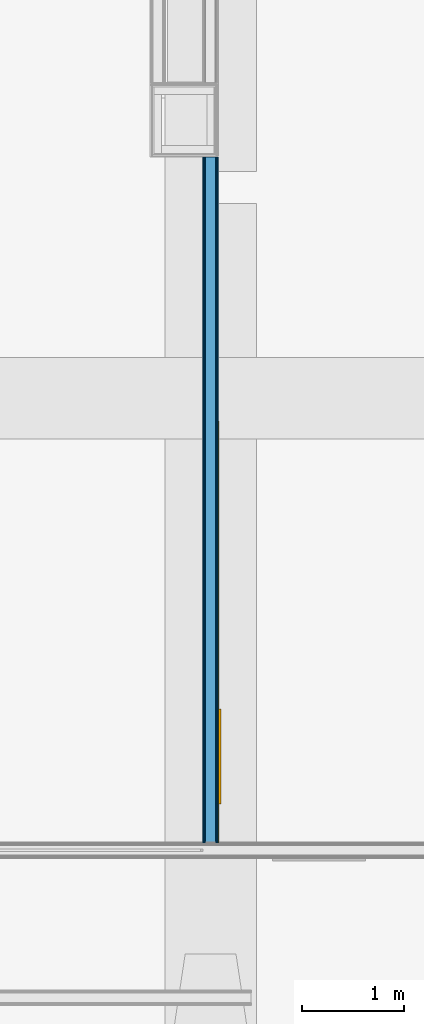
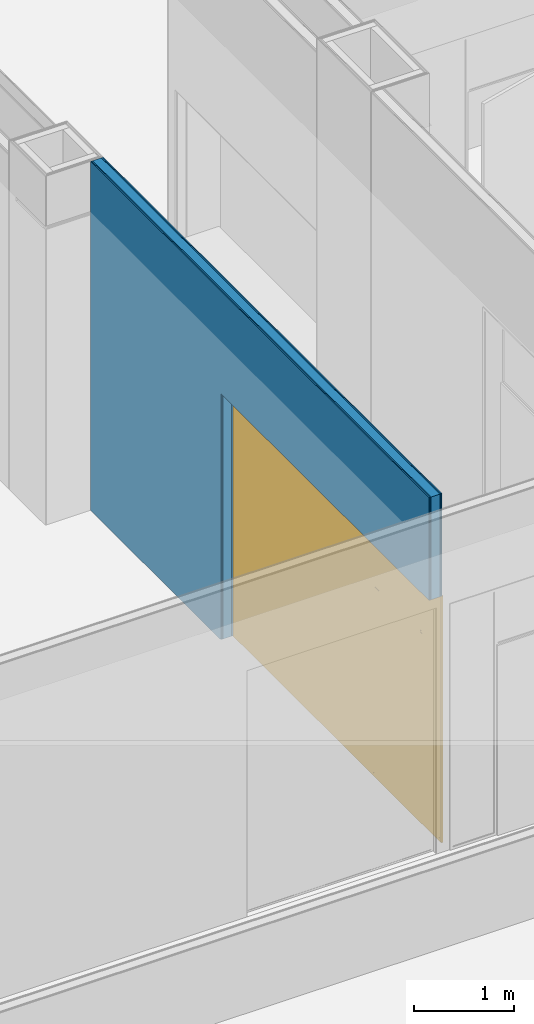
# One storey, part 69 of 94: 5 building element parts, 1 door, 1 opening, 1 element without a shape of its own.
"""IFC2X3 building model written with IfcOpenShell, lengths in millimetres."""

from ifc_helpers import new_model, entity, si_unit, converted_unit, derived_unit, money_unit, direction, frame, origin_with_axes, place, context, subcontext, project, spatial, open_shell, faceted_brep, surface_model, material, type_object, element, fill, aggregate, save


model = new_model("IFC2X3")

# Units and contexts
model_context = context("Model", 3, precision=0.01, world=origin_with_axes(), true_north=direction((0.0, 1.0)))
body_context = subcontext(model_context, "Body", "Model", "MODEL_VIEW")
ifc_project = project(units=[si_unit("LENGTHUNIT", "METRE", prefix="MILLI"), si_unit("AREAUNIT", "SQUARE_METRE"), si_unit("VOLUMEUNIT", "CUBIC_METRE"), converted_unit("PLANEANGLEUNIT", "DEGREE", entity("IfcPlaneAngleMeasure", 0.0174532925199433), si_unit("PLANEANGLEUNIT", "RADIAN"), dimensions=[0, 0, 0, 0, 0, 0, 0]), money_unit("EUR"), converted_unit("TIMEUNIT", "Year", entity("IfcTimeMeasure", 31557600.0), si_unit("TIMEUNIT", "SECOND"), dimensions=[0, 0, 1, 0, 0, 0, 0]), si_unit("MASSUNIT", "GRAM", prefix="KILO"), si_unit("THERMODYNAMICTEMPERATUREUNIT", "DEGREE_CELSIUS"), si_unit("LUMINOUSINTENSITYUNIT", "LUMEN"), si_unit("ENERGYUNIT", "JOULE", prefix="MEGA"), derived_unit("THERMALCONDUCTANCEUNIT", [(si_unit("POWERUNIT", "WATT"), 1), (si_unit("LENGTHUNIT", "METRE"), -1), (si_unit("THERMODYNAMICTEMPERATUREUNIT", "KELVIN"), -1)]), derived_unit("SPECIFICHEATCAPACITYUNIT", [(si_unit("ENERGYUNIT", "JOULE"), 1), (si_unit("MASSUNIT", "GRAM", prefix="KILO"), -1), (si_unit("THERMODYNAMICTEMPERATUREUNIT", "KELVIN"), -1)]), derived_unit("MASSDENSITYUNIT", [(si_unit("MASSUNIT", "GRAM", prefix="KILO"), 1), (si_unit("VOLUMEUNIT", "CUBIC_METRE"), -1)])], contexts=[model_context])

# Site, building, storey
site_placement = place(None, origin_with_axes())
site = spatial("IfcSite", under=ifc_project, at=site_placement, Name="<site naam>", CompositionType="ELEMENT")
building_placement = place(site_placement, origin_with_axes())
building = spatial("IfcBuilding", under=site, at=building_placement, Name="<Naam gebouw>", CompositionType="ELEMENT")
storey_placement = place(building_placement, frame((0.0, 0.0, 4250.0), z_axis=(0.0, 0.0, 1.0), x_axis=(1.0, 0.0, 0.0)))
storey = spatial("IfcBuildingStorey", under=building, at=storey_placement, Name="01 1e verdieping", CompositionType="ELEMENT", Elevation=4250.0)

# Door
door_style = type_object("IfcDoorStyle", Name="D1 bl zl2 27", ConstructionType="NOTDEFINED", OperationType="USERDEFINED", ParameterTakesPrecedence=False, Sizeable=False)
wall_placement = place(storey_placement, frame((-3999.999999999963, 2374.8189865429, 0.0), z_axis=(0.0, 0.0, 1.0), x_axis=(0.0, -1.0, 0.0)))
opening_placement = place(wall_placement, frame((4675.601566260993, 0.0, 0.0), z_axis=(0.0, 0.0, 1.0), x_axis=(1.0, 0.0, 0.0)))
door_placement = place(opening_placement, frame((-2075.782579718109, 0.0, 0.0), z_axis=(0.0, 0.0, 1.0), x_axis=(1.0, 0.0, 0.0)))
door = element("IfcDoor", 1, at=door_placement, inside=storey, type_object=door_style, Name="22_BI-F-16_305", ObjectType="DOOR", OverallHeight=3000.0, OverallWidth=4151.56, context=body_context, shape_type="SurfaceModel", body=[
    faceted_brep([(0.0, 85.00000000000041, 0.0), (32.99999999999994, 85.00000000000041, 0.0), (32.99999999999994, 65.0000000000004, 0.0), (0.0, 65.0000000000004, 0.0), (0.0, 85.00000000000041, 2967.0), (32.99999999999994, 85.00000000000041, 2967.0), (32.99999999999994, 85.00000000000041, 33.00000000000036), (32.99999999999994, 65.0000000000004, 33.00000000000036), (32.99999999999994, 65.0000000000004, 2967.0), (0.0, 65.0000000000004, 2967.0)], [[[0, 1, 2, 3]], [[0, 4, 5, 6, 1]], [[1, 6, 7, 2]], [[3, 2, 7, 8, 9]], [[4, 0, 3, 9]], [[5, 4, 9, 8]], [[6, 5, 8, 7]]]),
    faceted_brep([(2834.56515943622, 64.99999999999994, 0.0), (2834.56515943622, 64.99999999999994, 2317.0), (2851.56515943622, 64.99999999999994, 2317.0), (2851.56515943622, 64.99999999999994, 2333.0), (2851.56515943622, 64.99999999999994, 2967.0), (2809.56515943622, 64.99999999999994, 2967.0), (2809.56515943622, 64.99999999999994, 32.99999999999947), (2809.56515943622, 64.99999999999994, 0.0), (2834.56515943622, 84.99999999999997, 0.0), (2834.56515943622, 84.99999999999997, 2317.0), (2851.56515943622, 84.99999999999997, 2317.0), (2851.56515943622, 84.99999999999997, 2333.0), (2851.56515943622, 84.99999999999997, 2967.0), (2809.56515943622, 84.99999999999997, 2967.0), (2809.56515943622, 84.99999999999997, 32.99999999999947), (2809.56515943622, 84.99999999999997, 0.0)], [[[0, 1, 2, 3, 4, 5, 6, 7]], [[1, 0, 8, 9]], [[10, 2, 1, 9]], [[2, 10, 11, 3]], [[12, 4, 3, 11]], [[13, 5, 4, 12]], [[14, 6, 5, 13]], [[15, 7, 6, 14]], [[8, 0, 7, 15]], [[9, 8, 15, 14, 13, 12, 11, 10]]]),
    faceted_brep([(32.99999999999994, 85.00000000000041, 33.00000000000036), (32.99999999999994, 85.00000000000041, 0.0), (32.99999999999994, 65.0000000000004, 0.0), (32.99999999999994, 65.0000000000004, 33.00000000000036), (2809.56515943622, 84.99999999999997, 33.00000000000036), (2809.56515943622, 84.99999999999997, 0.0), (2809.56515943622, 64.99999999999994, 0.0), (2809.56515943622, 64.99999999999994, 33.00000000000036)], [[[0, 1, 2, 3]], [[0, 4, 5, 1]], [[1, 5, 6, 2]], [[3, 2, 6, 7]], [[4, 0, 3, 7]], [[5, 4, 7, 6]]]),
    faceted_brep([(4151.565159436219, 84.99999999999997, 0.0), (4151.565159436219, 85.00000000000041, 2967.0), (4151.565159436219, 65.0000000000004, 2967.0), (4151.565159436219, 64.99999999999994, 0.0), (4118.565159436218, 84.99999999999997, 0.0), (4118.565159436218, 84.99999999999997, 33.00000000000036), (4118.565159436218, 85.00000000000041, 2967.0), (4118.565159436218, 65.0000000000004, 2967.0), (4118.565159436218, 64.99999999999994, 33.00000000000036), (4118.565159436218, 64.99999999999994, 0.0)], [[[0, 1, 2, 3]], [[0, 4, 5, 6, 1]], [[1, 6, 7, 2]], [[3, 2, 7, 8, 9]], [[4, 0, 3, 9]], [[5, 4, 9, 8]], [[6, 5, 8, 7]]]),
    faceted_brep([(3768.565159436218, 65.0000000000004, 2317.0), (3768.565159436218, 64.99999999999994, 0.0), (3793.565159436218, 64.99999999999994, 0.0), (3793.565159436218, 64.99999999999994, 32.99999999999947), (3793.565159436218, 65.0000000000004, 2967.0), (3751.565159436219, 65.0000000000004, 2967.0), (3751.565159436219, 65.0000000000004, 2333.0), (3751.565159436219, 65.0000000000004, 2317.0), (3768.565159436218, 85.00000000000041, 2317.0), (3768.565159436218, 84.99999999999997, 0.0), (3793.565159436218, 84.99999999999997, 0.0), (3793.565159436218, 84.99999999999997, 32.99999999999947), (3793.565159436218, 85.00000000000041, 2967.0), (3751.565159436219, 85.00000000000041, 2967.0), (3751.565159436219, 85.00000000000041, 2333.0), (3751.565159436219, 85.00000000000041, 2317.0)], [[[0, 1, 2, 3, 4, 5, 6, 7]], [[1, 0, 8, 9]], [[1, 9, 10, 2]], [[11, 3, 2, 10]], [[12, 4, 3, 11]], [[13, 5, 4, 12]], [[14, 6, 5, 13]], [[15, 7, 6, 14]], [[0, 7, 15, 8]], [[8, 15, 14, 13, 12, 11, 10, 9]]]),
    faceted_brep([(3793.565159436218, 84.99999999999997, 33.00000000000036), (3793.565159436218, 84.99999999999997, 0.0), (3793.565159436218, 64.99999999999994, 0.0), (3793.565159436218, 64.99999999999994, 33.00000000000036), (4118.565159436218, 84.99999999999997, 33.00000000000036), (4118.565159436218, 84.99999999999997, 0.0), (4118.565159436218, 64.99999999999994, 0.0), (4118.565159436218, 64.99999999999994, 33.00000000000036)], [[[0, 1, 2, 3]], [[0, 4, 5, 1]], [[1, 5, 6, 2]], [[3, 2, 6, 7]], [[4, 0, 3, 7]], [[5, 4, 7, 6]]]),
    faceted_brep([(0.0, 85.00000000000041, 3000.0), (0.0, 85.00000000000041, 2967.0), (0.0, 65.0000000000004, 2967.0), (0.0, 65.0000000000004, 3000.0), (4151.565159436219, 85.00000000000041, 3000.0), (4151.565159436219, 85.00000000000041, 2967.0), (4118.565159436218, 85.00000000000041, 2967.0), (3793.565159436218, 85.00000000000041, 2967.0), (3751.565159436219, 85.00000000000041, 2967.0), (2851.56515943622, 84.99999999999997, 2967.0), (2809.56515943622, 84.99999999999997, 2967.0), (32.99999999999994, 85.00000000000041, 2967.0), (32.99999999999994, 65.0000000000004, 2967.0), (2809.56515943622, 64.99999999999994, 2967.0), (2851.56515943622, 64.99999999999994, 2967.0), (3751.565159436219, 65.0000000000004, 2967.0), (3793.565159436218, 65.0000000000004, 2967.0), (4118.565159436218, 65.0000000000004, 2967.0), (4151.565159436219, 65.0000000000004, 2967.0), (4151.565159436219, 65.0000000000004, 3000.0)], [[[0, 1, 2, 3]], [[0, 4, 5, 6, 7, 8, 9, 10, 11, 1]], [[1, 11, 12, 2]], [[3, 2, 12, 13, 14, 15, 16, 17, 18, 19]], [[4, 0, 3, 19]], [[5, 4, 19, 18]], [[6, 5, 18, 17]], [[7, 6, 17, 16]], [[8, 7, 16, 15]], [[9, 8, 15, 14]], [[10, 9, 14, 13]], [[11, 10, 13, 12]]]),
    faceted_brep([(2851.56515943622, 64.99999999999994, 2317.0), (3751.565159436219, 65.0000000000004, 2317.0), (3751.565159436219, 65.0000000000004, 2333.0), (2851.56515943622, 64.99999999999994, 2333.0), (3751.565159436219, 85.00000000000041, 2317.0), (2851.56515943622, 84.99999999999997, 2317.0), (3751.565159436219, 85.00000000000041, 2333.0), (2851.56515943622, 84.99999999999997, 2333.0)], [[[0, 1, 2, 3]], [[4, 1, 0, 5]], [[1, 4, 6, 2]], [[7, 3, 2, 6]], [[5, 0, 3, 7]], [[4, 5, 7, 6]]]),
    faceted_brep([(3768.565159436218, 103.0000000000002, 0.0), (3768.565159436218, 63.00000000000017, 0.0), (2834.56515943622, 62.99999999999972, 0.0), (2834.56515943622, 102.9999999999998, 0.0), (3768.565159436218, 103.0000000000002, 2317.0), (3768.565159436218, 63.00000000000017, 2317.0), (2834.56515943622, 62.99999999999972, 2317.0), (2834.56515943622, 102.9999999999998, 2317.0)], [[[0, 1, 2, 3]], [[4, 5, 1, 0]], [[1, 5, 6, 2]], [[3, 2, 6, 7]], [[0, 3, 7, 4]], [[7, 6, 5, 4]]]),
    surface_model("IfcShellBasedSurfaceModel", [(2851.56515943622, 59.00000000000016, 2333.0), (3751.565159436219, 59.00000000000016, 2333.0), (3751.565159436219, 59.00000000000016, 2967.0), (2851.56515943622, 59.00000000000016, 2967.0)], [open_shell([[[0, 1, 2, 3]]])]),
    surface_model("IfcShellBasedSurfaceModel", [(2851.56515943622, 71.00000000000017, 2333.0), (2851.56515943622, 71.00000000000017, 2967.0), (3751.565159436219, 71.00000000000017, 2967.0), (3751.565159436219, 71.00000000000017, 2333.0)], [open_shell([[[0, 1, 2, 3]]])]),
    surface_model("IfcShellBasedSurfaceModel", [(955.1883864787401, 59.00000000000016, 33.00000000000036), (955.1883864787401, 59.00000000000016, 2967.0), (32.99999999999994, 59.00000000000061, 2967.0), (32.99999999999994, 59.00000000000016, 33.00000000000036)], [open_shell([[[0, 1, 2, 3]]])]),
    surface_model("IfcShellBasedSurfaceModel", [(955.1883864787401, 71.00000000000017, 33.00000000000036), (32.99999999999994, 71.00000000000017, 33.00000000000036), (32.99999999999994, 71.00000000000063, 2967.0), (955.1883864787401, 71.00000000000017, 2967.0)], [open_shell([[[0, 1, 2, 3]]])]),
    surface_model("IfcShellBasedSurfaceModel", [(1882.37677295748, 59.00000000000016, 33.00000000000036), (1882.37677295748, 59.00000000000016, 2967.0), (960.1883864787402, 59.00000000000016, 2967.0), (960.1883864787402, 59.00000000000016, 33.00000000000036)], [open_shell([[[0, 1, 2, 3]]])]),
    surface_model("IfcShellBasedSurfaceModel", [(1882.37677295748, 71.00000000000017, 33.00000000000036), (960.1883864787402, 71.00000000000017, 33.00000000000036), (960.1883864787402, 71.00000000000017, 2967.0), (1882.37677295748, 71.00000000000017, 2967.0)], [open_shell([[[0, 1, 2, 3]]])]),
    surface_model("IfcShellBasedSurfaceModel", [(2809.56515943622, 58.99999999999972, 33.00000000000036), (2809.56515943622, 59.00000000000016, 2967.0), (1887.376772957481, 59.00000000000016, 2967.0), (1887.376772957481, 59.00000000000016, 33.00000000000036)], [open_shell([[[0, 1, 2, 3]]])]),
    surface_model("IfcShellBasedSurfaceModel", [(2809.56515943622, 70.99999999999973, 33.00000000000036), (1887.376772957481, 71.00000000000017, 33.00000000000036), (1887.376772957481, 71.00000000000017, 2967.0), (2809.56515943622, 71.00000000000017, 2967.0)], [open_shell([[[0, 1, 2, 3]]])]),
    faceted_brep([(955.1883864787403, 80.00000000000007, 33.00000000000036), (955.1883864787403, 84.99999999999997, 33.00000000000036), (960.1883864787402, 84.99999999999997, 33.00000000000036), (960.1883864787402, 80.00000000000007, 33.00000000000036), (955.1883864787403, 80.00000000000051, 2967.0), (955.1883864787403, 85.00000000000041, 2967.0), (960.1883864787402, 85.00000000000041, 2967.0), (960.1883864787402, 80.00000000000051, 2967.0)], [[[0, 1, 2, 3]], [[4, 5, 1, 0]], [[1, 5, 6, 2]], [[3, 2, 6, 7]], [[0, 3, 7, 4]], [[7, 6, 5, 4]]]),
    faceted_brep([(1882.37677295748, 80.00000000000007, 33.00000000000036), (1882.37677295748, 84.99999999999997, 33.00000000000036), (1887.376772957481, 84.99999999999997, 33.00000000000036), (1887.376772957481, 80.00000000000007, 33.00000000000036), (1882.37677295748, 80.00000000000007, 2967.0), (1882.37677295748, 84.99999999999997, 2967.0), (1887.376772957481, 84.99999999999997, 2967.0), (1887.376772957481, 80.00000000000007, 2967.0)], [[[0, 1, 2, 3]], [[4, 5, 1, 0]], [[1, 5, 6, 2]], [[3, 2, 6, 7]], [[0, 3, 7, 4]], [[7, 6, 5, 4]]]),
    surface_model("IfcShellBasedSurfaceModel", [(3793.565159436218, 59.00000000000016, 33.00000000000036), (4118.565159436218, 59.00000000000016, 33.00000000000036), (4118.565159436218, 59.00000000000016, 2967.0), (3793.565159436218, 59.00000000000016, 2967.0)], [open_shell([[[0, 1, 2, 3]]])]),
    surface_model("IfcShellBasedSurfaceModel", [(3793.565159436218, 71.00000000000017, 33.00000000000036), (3793.565159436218, 71.00000000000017, 2967.0), (4118.565159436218, 71.00000000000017, 2967.0), (4118.565159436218, 71.00000000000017, 33.00000000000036)], [open_shell([[[0, 1, 2, 3]]])]),
])

# Wall, opening
wall_type = type_object("IfcWallType", Name="MS-01 GF 150 ECO DGS/2.100.2.A 150", PredefinedType="NOTDEFINED")
wall = element("IfcWall", 2, at=wall_placement, inside=storey, type_object=wall_type, Name="22_Binnenwand_MS-01")
opening = element("IfcOpeningElement", 3, at=opening_placement, cuts=wall, Name="22_BI-F-16_305", context=body_context, shape_type="Brep", body=[
    faceted_brep([(-2075.782579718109, -76.00000000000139, 3000.0), (-2075.782579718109, -76.00000000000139, 0.0), (2075.782579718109, -76.00000000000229, 0.0), (2075.782579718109, -76.00000000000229, 3000.0), (-2075.782579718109, 76.00000000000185, 3000.0), (-2075.782579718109, 76.00000000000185, 0.0), (2075.782579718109, 76.00000000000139, 0.0), (2075.782579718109, 76.00000000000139, 3000.0)], [[[0, 1, 2, 3]], [[4, 5, 1, 0]], [[5, 6, 2, 1]], [[6, 7, 3, 2]], [[7, 4, 0, 3]], [[6, 5, 4, 7]]]),
])

fill(opening, door)

# Building element part
ifc_material_1 = material(Name="gipsplaat")
building_element_part_1_placement = place(wall_placement, origin_with_axes())
building_element_part_1 = element("IfcBuildingElementPart", 4, at=building_element_part_1_placement, material=ifc_material_1, Name="gipsplaat", context=body_context, shape_type="Brep", body=[
    faceted_brep([(6751.384145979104, 75.00008958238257, 3.000000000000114), (0.0, 75.00008958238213, 3.000000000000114), (0.0, 74.99999999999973, 4250.0), (6751.384145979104, 75.00000000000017, 4250.0), (0.0, 62.50000000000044, 3.000000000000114), (6751.384145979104, 62.49999999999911, 3.000000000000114), (0.0, 62.50000000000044, 4250.0), (6751.384145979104, 62.5, 4250.0)], [[[0, 1, 2, 3]], [[4, 1, 0, 5]], [[1, 4, 6, 2]], [[7, 3, 2, 6]], [[5, 0, 3, 7]], [[4, 5, 7, 6]]]),
])

building_element_part_2_placement = place(wall_placement, origin_with_axes())
building_element_part_2 = element("IfcBuildingElementPart", 5, at=building_element_part_2_placement, material=ifc_material_1, Name="gipsplaat", context=body_context, shape_type="Brep", body=[
    faceted_brep([(6751.384145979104, 62.49999999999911, 3.000000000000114), (0.0, 62.50000000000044, 3.000000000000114), (0.0, 62.50000000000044, 4250.0), (6751.384145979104, 62.5, 4250.0), (0.0, 49.99999999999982, 3.000000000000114), (6751.384145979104, 49.99999999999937, 3.000000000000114), (0.0, 50.00000000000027, 4250.0), (6751.384145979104, 49.99999999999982, 4250.0)], [[[0, 1, 2, 3]], [[4, 1, 0, 5]], [[1, 4, 6, 2]], [[7, 3, 2, 6]], [[5, 0, 3, 7]], [[4, 5, 7, 6]]]),
])

ifc_material_2 = material(Name="isolatie_steenwol LSW")
building_element_part_3_placement = place(wall_placement, origin_with_axes())
building_element_part_3 = element("IfcBuildingElementPart", 6, at=building_element_part_3_placement, material=ifc_material_2, Name="isolatie_steenwol LSW", context=body_context, shape_type="Brep", body=[
    faceted_brep([(6751.384145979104, 49.99999999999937, 3.000000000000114), (0.0, 49.99999999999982, 3.000000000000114), (0.0, 50.00000000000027, 4250.0), (6751.384145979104, 49.99999999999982, 4250.0), (0.0, -50.00000000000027, 3.000000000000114), (6751.384145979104, -50.00000000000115, 3.000000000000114), (0.0, -49.99999999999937, 4250.0), (6751.384145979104, -50.00000000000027, 4250.0)], [[[0, 1, 2, 3]], [[4, 1, 0, 5]], [[1, 4, 6, 2]], [[7, 3, 2, 6]], [[5, 0, 3, 7]], [[4, 5, 7, 6]]]),
])

building_element_part_4_placement = place(wall_placement, origin_with_axes())
building_element_part_4 = element("IfcBuildingElementPart", 7, at=building_element_part_4_placement, material=ifc_material_1, Name="gipsplaat", context=body_context, shape_type="Brep", body=[
    faceted_brep([(6751.384145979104, -50.00000000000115, 3.000000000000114), (0.0, -50.00000000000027, 3.000000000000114), (0.0, -49.99999999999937, 4250.0), (6751.384145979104, -50.00000000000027, 4250.0), (0.0, -62.49999999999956, 3.000000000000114), (6751.384145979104, -62.50000000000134, 3.000000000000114), (0.0, -62.49999999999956, 4250.0), (6751.384145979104, -62.50000000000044, 4250.0)], [[[0, 1, 2, 3]], [[4, 1, 0, 5]], [[1, 4, 6, 2]], [[7, 3, 2, 6]], [[5, 0, 3, 7]], [[4, 5, 7, 6]]]),
])

building_element_part_5_placement = place(wall_placement, origin_with_axes())
building_element_part_5 = element("IfcBuildingElementPart", 8, at=building_element_part_5_placement, material=ifc_material_1, Name="gipsplaat", context=body_context, shape_type="Brep", body=[
    faceted_brep([(6751.384145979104, -62.50000000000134, 3.000000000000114), (0.0, -62.49999999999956, 3.000000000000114), (0.0, -62.49999999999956, 4250.0), (6751.384145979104, -62.50000000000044, 4250.0), (0.0, -74.99999999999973, 3.000000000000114), (6751.384145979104, -75.00000000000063, 3.000000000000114), (0.0, -74.99999999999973, 4250.0), (6751.384145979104, -75.00000000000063, 4250.0)], [[[0, 1, 2, 3]], [[4, 1, 0, 5]], [[1, 4, 6, 2]], [[7, 3, 2, 6]], [[5, 0, 3, 7]], [[4, 5, 7, 6]]]),
])

aggregate(wall, [building_element_part_1, building_element_part_2, building_element_part_3, building_element_part_4, building_element_part_5])

save(model, "model.ifc")
